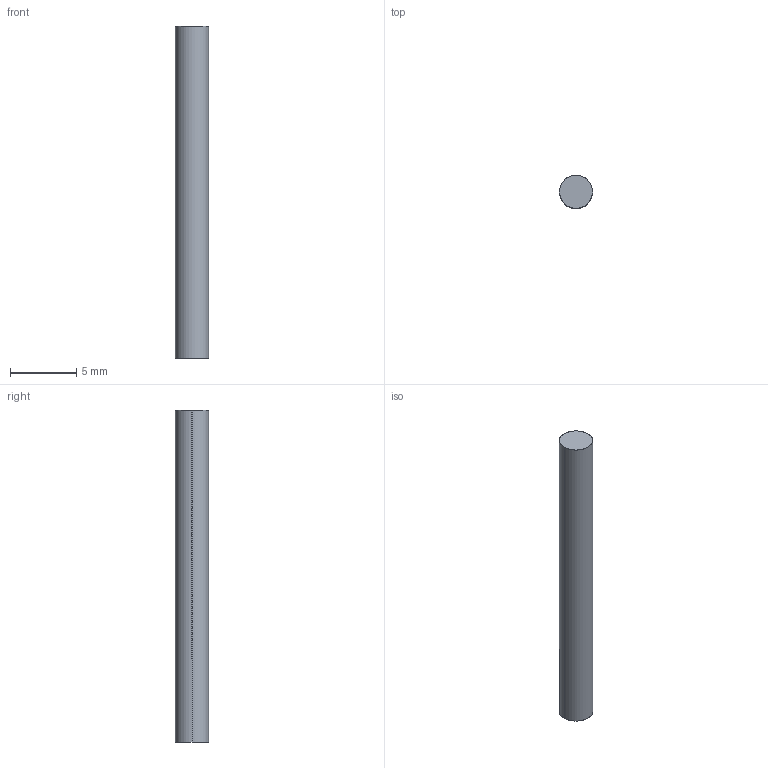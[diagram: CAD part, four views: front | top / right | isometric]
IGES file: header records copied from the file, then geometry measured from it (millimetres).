
Start section: SolidWorks IGES file using analytic representation for surfaces
Global section: file name: C:\Users\cbrechard\Desktop\425.030.00.IGS; native system: SolidWorks 2008; preprocessor: SolidWorks 2008; author: cbrechard; date: 140107.173538; units: millimetre
Bounding box: 2.5 x 2.5 x 25 mm (x, y, z)
Surface area: 206.2 mm2 (no closed solid volume)
Topology: 0 solids, 0 shells, 4 faces, 72 edges, 72 vertices
Faces by surface type: revolution 2, bspline 2
